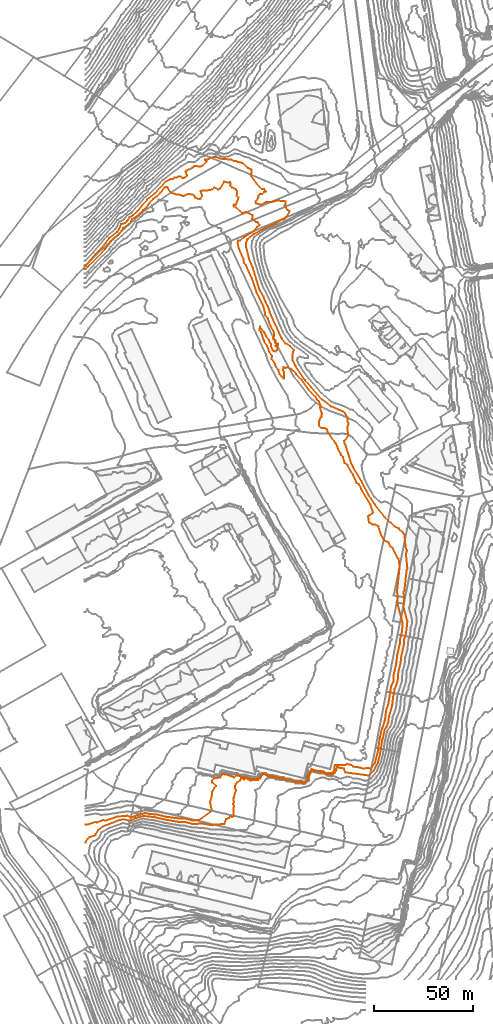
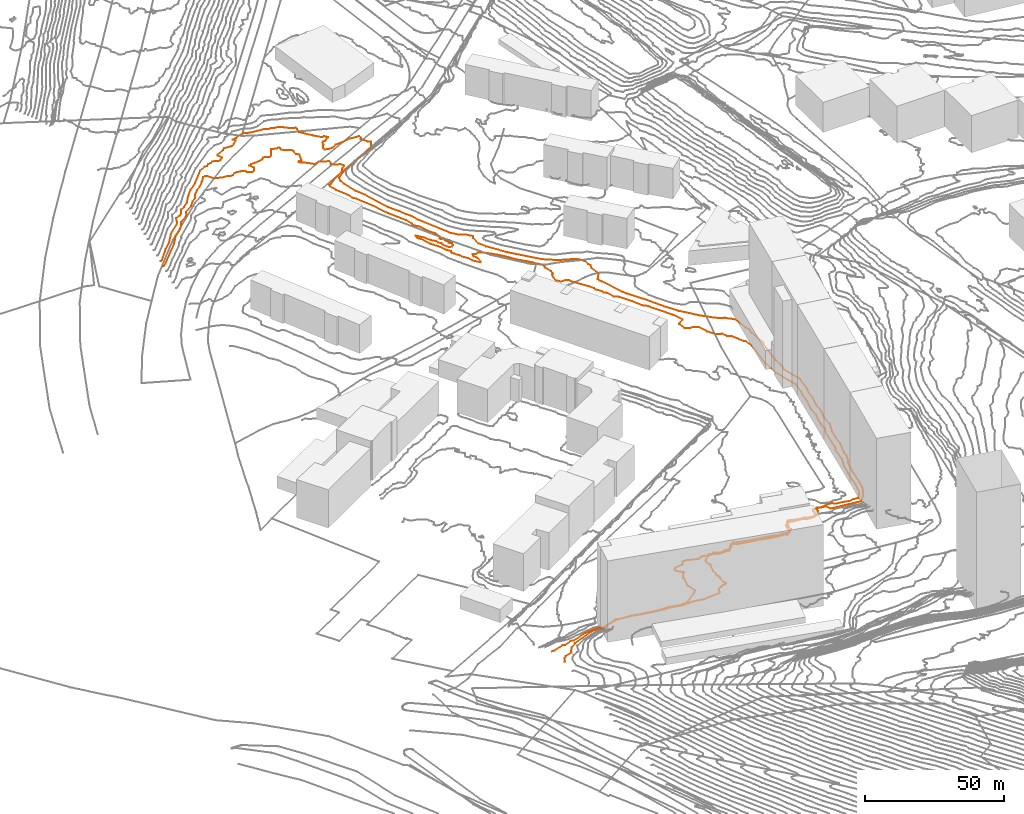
# Not in any storey, part 140 of 419: 2 proxies.
"""IFC2X3 model written with IfcOpenShell, lengths in metres."""

from ifc_helpers import new_model, entity, si_unit, frame, origin_with_axes, place, context, subcontext, project, element, save


model = new_model("IFC2X3")

# Units and contexts
model_context = context("Model", 3, precision=1e-05, world=origin_with_axes())
body_context = subcontext(model_context, "Body", "Model", "MODEL_VIEW")
ifc_project = project(units=[si_unit("AREAUNIT", "SQUARE_METRE"), si_unit("LENGTHUNIT", "METRE")], contexts=[model_context])

# Proxies
proxy_1_placement = place(None, frame((-0.4079795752, 354.5776912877, 15.0), z_axis=(0.0, 0.0, 1.0), x_axis=(1.0, 0.0, 0.0)))
element("IfcBuildingElementProxy", 1, at=proxy_1_placement, Name="Contour 15.0 m", ObjectType="NOTDEFINED", context=body_context, shape_type="GeometricCurveSet", body=[
    entity("IfcGeometricCurveSet", [entity("IfcPolyline", [entity("IfcCartesianPoint", [0.0, 0.0, 0.0]), entity("IfcCartesianPoint", [1.5, 0.0342834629, 0.0]), entity("IfcCartesianPoint", [5.5, 1.3845172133, 0.0]), entity("IfcCartesianPoint", [6.5, 1.1295237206, 0.0]), entity("IfcCartesianPoint", [9.5, 2.2799987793, 0.0]), entity("IfcCartesianPoint", [10.5, 1.9496285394, 0.0]), entity("IfcCartesianPoint", [16.5, 4.0283326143, 0.0]), entity("IfcCartesianPoint", [21.5, 4.4400005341, 0.0]), entity("IfcCartesianPoint", [23.5, 3.7018178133, 0.0]), entity("IfcCartesianPoint", [30.5, 5.8503026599, 0.0]), entity("IfcCartesianPoint", [32.5, 5.3347059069, 0.0]), entity("IfcCartesianPoint", [36.5, 5.0699996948, 0.0]), entity("IfcCartesianPoint", [41.5, 3.8824996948, 0.0]), entity("IfcCartesianPoint", [47.5, 3.0786197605, 0.0]), entity("IfcCartesianPoint", [50.5, 3.1094734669, 0.0]), entity("IfcCartesianPoint", [54.5, 2.056842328, 0.0]), entity("IfcCartesianPoint", [57.9000076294, 2.3199996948, 0.0]), entity("IfcCartesianPoint", [63.2999961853, 6.3199996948, 0.0]), entity("IfcCartesianPoint", [64.2499940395, 7.3199996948, 0.0]), entity("IfcCartesianPoint", [63.3888865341, 11.3199996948, 0.0]), entity("IfcCartesianPoint", [64.4999800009, 15.3199996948, 0.0]), entity("IfcCartesianPoint", [64.4999909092, 16.3199996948, 0.0]), entity("IfcCartesianPoint", [65.5, 18.3200121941, 0.0]), entity("IfcCartesianPoint", [66.4999875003, 19.3199996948, 0.0]), entity("IfcCartesianPoint", [64.3333306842, 21.3199996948, 0.0]), entity("IfcCartesianPoint", [64.3000012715, 22.3199996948, 0.0]), entity("IfcCartesianPoint", [65.3148144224, 23.3199996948, 0.0]), entity("IfcCartesianPoint", [68.5, 23.7790159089, 0.0]), entity("IfcCartesianPoint", [69.5, 25.4199998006, 0.0]), entity("IfcCartesianPoint", [71.1451617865, 25.3199996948, 0.0]), entity("IfcCartesianPoint", [75.5, 23.826849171, 0.0]), entity("IfcCartesianPoint", [76.5, 24.6288233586, 0.0]), entity("IfcCartesianPoint", [77.5, 24.6357891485, 0.0]), entity("IfcCartesianPoint", [79.5, 23.9177011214, 0.0]), entity("IfcCartesianPoint", [81.5, 23.8496800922, 0.0]), entity("IfcCartesianPoint", [83.5, 22.8660121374, 0.0]), entity("IfcCartesianPoint", [85.5, 23.0654540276, 0.0]), entity("IfcCartesianPoint", [87.5, 22.8616661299, 0.0]), entity("IfcCartesianPoint", [88.047263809, 23.3199996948, 0.0]), entity("IfcCartesianPoint", [89.1645962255, 25.3199996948, 0.0]), entity("IfcCartesianPoint", [90.5, 25.7994112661, 0.0]), entity("IfcCartesianPoint", [92.5, 24.884606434, 0.0]), entity("IfcCartesianPoint", [98.5, 23.5888674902, 0.0]), entity("IfcCartesianPoint", [99.5, 23.5975115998, 0.0]), entity("IfcCartesianPoint", [104.5, 22.1295233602, 0.0]), entity("IfcCartesianPoint", [109.5, 21.6295237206, 0.0]), entity("IfcCartesianPoint", [110.5, 21.041211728, 0.0]), entity("IfcCartesianPoint", [112.5318021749, 22.3199996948, 0.0]), entity("IfcCartesianPoint", [112.5738006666, 24.3199996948, 0.0]), entity("IfcCartesianPoint", [113.2077923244, 26.3199996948, 0.0]), entity("IfcCartesianPoint", [114.5, 27.9721735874, 0.0]), entity("IfcCartesianPoint", [116.5, 27.2350939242, 0.0]), entity("IfcCartesianPoint", [120.5, 26.8063010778, 0.0]), entity("IfcCartesianPoint", [121.5, 26.0993423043, 0.0]), entity("IfcCartesianPoint", [122.5, 25.8974642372, 0.0]), entity("IfcCartesianPoint", [124.5, 26.0, 0.0]), entity("IfcCartesianPoint", [125.5757578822, 26.3199996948, 0.0]), entity("IfcCartesianPoint", [126.1229508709, 28.3199996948, 0.0]), entity("IfcCartesianPoint", [126.0466664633, 29.3199996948, 0.0]), entity("IfcCartesianPoint", [126.5, 29.9932671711, 0.0]), entity("IfcCartesianPoint", [131.5, 30.1116657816, 0.0]), entity("IfcCartesianPoint", [132.5, 30.4939125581, 0.0]), entity("IfcCartesianPoint", [134.5, 30.157836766, 0.0]), entity("IfcCartesianPoint", [135.5, 29.2165523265, 0.0]), entity("IfcCartesianPoint", [138.5, 28.8512504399, 0.0]), entity("IfcCartesianPoint", [140.5, 28.2290913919, 0.0]), entity("IfcCartesianPoint", [142.5, 28.526897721, 0.0]), entity("IfcCartesianPoint", [144.5, 28.2855161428, 0.0]), entity("IfcCartesianPoint", [146.5434779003, 31.3199996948, 0.0]), entity("IfcCartesianPoint", [147.8611112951, 36.3199996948, 0.0]), entity("IfcCartesianPoint", [148.9444444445, 43.3199996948, 0.0]), entity("IfcCartesianPoint", [150.0675678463, 48.3199996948, 0.0]), entity("IfcCartesianPoint", [151.4811316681, 52.3199996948, 0.0]), entity("IfcCartesianPoint", [152.3222223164, 58.3199996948, 0.0]), entity("IfcCartesianPoint", [153.1744180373, 60.3199996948, 0.0]), entity("IfcCartesianPoint", [154.6224496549, 69.3199996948, 0.0]), entity("IfcCartesianPoint", [155.8478257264, 72.3199996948, 0.0]), entity("IfcCartesianPoint", [155.944444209, 75.3199996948, 0.0]), entity("IfcCartesianPoint", [157.2872333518, 81.3199996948, 0.0]), entity("IfcCartesianPoint", [157.7127666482, 85.3199996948, 0.0]), entity("IfcCartesianPoint", [159.0957449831, 91.3199996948, 0.0]), entity("IfcCartesianPoint", [159.3666659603, 94.3199996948, 0.0]), entity("IfcCartesianPoint", [159.9999978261, 96.3199996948, 0.0]), entity("IfcCartesianPoint", [160.5697669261, 101.3199996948, 0.0]), entity("IfcCartesianPoint", [157.9999973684, 111.3199996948, 0.0]), entity("IfcCartesianPoint", [157.7499991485, 118.3199996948, 0.0]), entity("IfcCartesianPoint", [159.0263163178, 130.3199996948, 0.0]), entity("IfcCartesianPoint", [158.5, 133.9866610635, 0.0]), entity("IfcCartesianPoint", [157.9999750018, 134.3199996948, 0.0]), entity("IfcCartesianPoint", [155.6428590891, 139.3199996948, 0.0]), entity("IfcCartesianPoint", [154.2999961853, 140.3199996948, 0.0]), entity("IfcCartesianPoint", [153.5, 142.3199854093, 0.0]), entity("IfcCartesianPoint", [151.2499970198, 143.3199996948, 0.0]), entity("IfcCartesianPoint", [149.5769247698, 146.3199996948, 0.0]), entity("IfcCartesianPoint", [148.2499970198, 150.3199996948, 0.0]), entity("IfcCartesianPoint", [146.5, 151.2533317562, 0.0]), entity("IfcCartesianPoint", [145.2999961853, 151.3199996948, 0.0]), entity("IfcCartesianPoint", [143.5625014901, 152.3199996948, 0.0]), entity("IfcCartesianPoint", [143.1153834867, 155.3199996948, 0.0]), entity("IfcCartesianPoint", [143.5, 155.875556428, 0.0]), entity("IfcCartesianPoint", [145.6428571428, 157.3199996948, 0.0]), entity("IfcCartesianPoint", [144.2307688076, 161.3199996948, 0.0]), entity("IfcCartesianPoint", [139.630435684, 169.3199996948, 0.0]), entity("IfcCartesianPoint", [139.3124998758, 170.3199996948, 0.0]), entity("IfcCartesianPoint", [138.5, 171.4670590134, 0.0]), entity("IfcCartesianPoint", [137.3709680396, 172.3199996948, 0.0]), entity("IfcCartesianPoint", [135.5784312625, 176.3199996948, 0.0]), entity("IfcCartesianPoint", [132.6219517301, 181.3199996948, 0.0]), entity("IfcCartesianPoint", [131.2647062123, 182.3199996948, 0.0]), entity("IfcCartesianPoint", [130.3999996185, 185.3199996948, 0.0]), entity("IfcCartesianPoint", [129.3846146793, 186.3199996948, 0.0]), entity("IfcCartesianPoint", [129.222222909, 187.3199996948, 0.0]), entity("IfcCartesianPoint", [127.855932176, 189.3199996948, 0.0]), entity("IfcCartesianPoint", [127.7083339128, 190.3199996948, 0.0]), entity("IfcCartesianPoint", [126.6621629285, 192.3199996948, 0.0]), entity("IfcCartesianPoint", [122.6481482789, 198.3199996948, 0.0]), entity("IfcCartesianPoint", [122.4999928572, 199.3199996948, 0.0]), entity("IfcCartesianPoint", [121.5, 199.8584620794, 0.0]), entity("IfcCartesianPoint", [119.5, 199.9062069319, 0.0]), entity("IfcCartesianPoint", [118.3518517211, 201.3199996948, 0.0]), entity("IfcCartesianPoint", [118.3749977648, 203.3199996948, 0.0]), entity("IfcCartesianPoint", [118.9999500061, 205.3199996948, 0.0]), entity("IfcCartesianPoint", [119.5, 205.6533330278, 0.0]), entity("IfcCartesianPoint", [119.7500029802, 207.3199996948, 0.0]), entity("IfcCartesianPoint", [118.8333386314, 210.3199996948, 0.0]), entity("IfcCartesianPoint", [119.2142818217, 211.3199996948, 0.0]), entity("IfcCartesianPoint", [118.3571399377, 213.3199996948, 0.0]), entity("IfcCartesianPoint", [117.2333329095, 214.3199996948, 0.0]), entity("IfcCartesianPoint", [116.5, 215.774544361, 0.0]), entity("IfcCartesianPoint", [113.1, 219.3199996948, 0.0]), entity("IfcCartesianPoint", [109.5, 224.34272746, 0.0]), entity("IfcCartesianPoint", [106.8571433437, 227.3199996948, 0.0]), entity("IfcCartesianPoint", [104.5, 229.4866690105, 0.0]), entity("IfcCartesianPoint", [102.5, 230.7485691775, 0.0]), entity("IfcCartesianPoint", [101.5, 230.1949967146, 0.0]), entity("IfcCartesianPoint", [100.5, 230.6533330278, 0.0]), entity("IfcCartesianPoint", [100.0999987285, 229.3199996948, 0.0]), entity("IfcCartesianPoint", [100.6818213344, 228.3199996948, 0.0]), entity("IfcCartesianPoint", [100.7857181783, 225.3199996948, 0.0]), entity("IfcCartesianPoint", [100.5, 224.9199920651, 0.0]), entity("IfcCartesianPoint", [99.5, 225.8914302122, 0.0]), entity("IfcCartesianPoint", [98.499997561, 227.3199996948, 0.0]), entity("IfcCartesianPoint", [97.8750007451, 229.3199996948, 0.0]), entity("IfcCartesianPoint", [96.4374986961, 231.3199996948, 0.0]), entity("IfcCartesianPoint", [96.2083343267, 232.3199996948, 0.0]), entity("IfcCartesianPoint", [94.5, 234.8914263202, 0.0]), entity("IfcCartesianPoint", [94.3636355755, 235.3199996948, 0.0]), entity("IfcCartesianPoint", [94.7222269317, 236.3199996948, 0.0]), entity("IfcCartesianPoint", [93.5, 237.9866663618, 0.0]), entity("IfcCartesianPoint", [92.2391291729, 241.3199996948, 0.0]), entity("IfcCartesianPoint", [90.5, 244.1057149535, 0.0]), entity("IfcCartesianPoint", [89.1190480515, 248.3199996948, 0.0]), entity("IfcCartesianPoint", [88.3857145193, 249.3199996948, 0.0]), entity("IfcCartesianPoint", [88.5, 251.1533303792, 0.0]), entity("IfcCartesianPoint", [90.7222269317, 248.3199996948, 0.0]), entity("IfcCartesianPoint", [91.6111134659, 246.3199996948, 0.0]), entity("IfcCartesianPoint", [93.1923082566, 244.3199996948, 0.0]), entity("IfcCartesianPoint", [93.3749977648, 243.3199996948, 0.0]), entity("IfcCartesianPoint", [94.1666666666, 242.3199996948, 0.0]), entity("IfcCartesianPoint", [94.0999987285, 241.3199996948, 0.0]), entity("IfcCartesianPoint", [95.0000049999, 239.3199996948, 0.0]), entity("IfcCartesianPoint", [95.5, 238.7317624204, 0.0]), entity("IfcCartesianPoint", [96.5, 238.6949967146, 0.0]), entity("IfcCartesianPoint", [97.2142818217, 239.3199996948, 0.0]), entity("IfcCartesianPoint", [97.4999666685, 240.3199996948, 0.0]), entity("IfcCartesianPoint", [96.4999500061, 241.3199996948, 0.0]), entity("IfcCartesianPoint", [97.5, 241.3200996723, 0.0]), entity("IfcCartesianPoint", [97.6428590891, 242.3199996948, 0.0]), entity("IfcCartesianPoint", [97.5, 242.6533330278, 0.0]), entity("IfcCartesianPoint", [96.5, 242.6533330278, 0.0]), entity("IfcCartesianPoint", [96.2142818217, 243.3199996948, 0.0]), entity("IfcCartesianPoint", [96.4999500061, 244.3199996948, 0.0]), entity("IfcCartesianPoint", [95.5, 244.7200073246, 0.0]), entity("IfcCartesianPoint", [95.0714305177, 245.3199996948, 0.0]), entity("IfcCartesianPoint", [95.7500059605, 246.3199996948, 0.0]), entity("IfcCartesianPoint", [95.5, 248.7200073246, 0.0]), entity("IfcCartesianPoint", [93.9285694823, 251.3199996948, 0.0]), entity("IfcCartesianPoint", [92.5588248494, 255.3199996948, 0.0]), entity("IfcCartesianPoint", [91.0555567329, 257.3199996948, 0.0]), entity("IfcCartesianPoint", [91.0909088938, 258.3199996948, 0.0]), entity("IfcCartesianPoint", [90.3333342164, 261.3199996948, 0.0]), entity("IfcCartesianPoint", [86.9358972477, 268.3199996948, 0.0]), entity("IfcCartesianPoint", [84.5, 275.3199944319, 0.0]), entity("IfcCartesianPoint", [81.5, 282.1295237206, 0.0]), entity("IfcCartesianPoint", [80.5204086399, 283.3199996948, 0.0]), entity("IfcCartesianPoint", [80.2608703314, 285.3199996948, 0.0]), entity("IfcCartesianPoint", [78.0599994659, 290.3199996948, 0.0]), entity("IfcCartesianPoint", [77.2872333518, 293.3199996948, 0.0]), entity("IfcCartesianPoint", [77.5, 294.4898113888, 0.0]), entity("IfcCartesianPoint", [78.5, 294.6771430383, 0.0]), entity("IfcCartesianPoint", [80.5, 296.320002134, 0.0]), entity("IfcCartesianPoint", [85.4999923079, 299.3199996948, 0.0]), entity("IfcCartesianPoint", [86.9545446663, 301.3199996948, 0.0]), entity("IfcCartesianPoint", [88.2333329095, 302.3199996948, 0.0]), entity("IfcCartesianPoint", [87.5, 303.7200073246, 0.0]), entity("IfcCartesianPoint", [86.5, 303.9866610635, 0.0]), entity("IfcCartesianPoint", [84.4999888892, 305.3199996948, 0.0]), entity("IfcCartesianPoint", [84.9000076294, 306.3199996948, 0.0]), entity("IfcCartesianPoint", [84.9000076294, 307.3199996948, 0.0]), entity("IfcCartesianPoint", [81.5, 308.8914302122, 0.0]), entity("IfcCartesianPoint", [79.5, 308.396924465, 0.0]), entity("IfcCartesianPoint", [76.5, 311.1771406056, 0.0]), entity("IfcCartesianPoint", [75.5, 311.7200073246, 0.0]), entity("IfcCartesianPoint", [75.1666701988, 312.3199996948, 0.0]), entity("IfcCartesianPoint", [75.5, 312.6949967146, 0.0]), entity("IfcCartesianPoint", [76.5, 312.6533330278, 0.0]), entity("IfcCartesianPoint", [77.7000038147, 316.3199996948, 0.0]), entity("IfcCartesianPoint", [76.8333298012, 317.3199996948, 0.0]), entity("IfcCartesianPoint", [76.9999900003, 319.3199996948, 0.0]), entity("IfcCartesianPoint", [76.5, 320.3199796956, 0.0]), entity("IfcCartesianPoint", [74.5, 321.3199830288, 0.0]), entity("IfcCartesianPoint", [73.4999000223, 322.3199996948, 0.0]), entity("IfcCartesianPoint", [73.7222269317, 323.3199996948, 0.0]), entity("IfcCartesianPoint", [73.5, 323.9866663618, 0.0]), entity("IfcCartesianPoint", [72.5, 323.6949967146, 0.0]), entity("IfcCartesianPoint", [70.5, 324.3198997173, 0.0]), entity("IfcCartesianPoint", [68.5, 320.8199746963, 0.0]), entity("IfcCartesianPoint", [67.5000499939, 320.3199996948, 0.0]), entity("IfcCartesianPoint", [65.5, 321.3199796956, 0.0]), entity("IfcCartesianPoint", [64.5, 320.3199854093, 0.0]), entity("IfcCartesianPoint", [61.5, 319.8199913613, 0.0]), entity("IfcCartesianPoint", [59.5, 319.8199871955, 0.0]), entity("IfcCartesianPoint", [58.5, 319.462858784, 0.0]), entity("IfcCartesianPoint", [59.4545444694, 317.3199996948, 0.0]), entity("IfcCartesianPoint", [58.5, 315.6533315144, 0.0]), entity("IfcCartesianPoint", [57.5, 315.396924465, 0.0]), entity("IfcCartesianPoint", [55.8750007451, 316.3199996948, 0.0]), entity("IfcCartesianPoint", [55.5, 316.9866698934, 0.0]), entity("IfcCartesianPoint", [54.5, 317.7200009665, 0.0]), entity("IfcCartesianPoint", [52.5, 318.0342863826, 0.0]), entity("IfcCartesianPoint", [51.5, 317.8199896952, 0.0]), entity("IfcCartesianPoint", [50.5, 317.1533303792, 0.0]), entity("IfcCartesianPoint", [49.5, 317.0342863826, 0.0]), entity("IfcCartesianPoint", [48.5, 317.605713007, 0.0]), entity("IfcCartesianPoint", [46.5, 317.774544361, 0.0]), entity("IfcCartesianPoint", [43.5, 318.6993089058, 0.0]), entity("IfcCartesianPoint", [42.0333341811, 321.3199996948, 0.0]), entity("IfcCartesianPoint", [41.5, 321.6678261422, 0.0]), entity("IfcCartesianPoint", [40.5, 321.3897666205, 0.0]), entity("IfcCartesianPoint", [38.5, 318.8533327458, 0.0]), entity("IfcCartesianPoint", [36.5, 316.8654552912, 0.0]), entity("IfcCartesianPoint", [34.5, 315.4286957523, 0.0]), entity("IfcCartesianPoint", [32.5333340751, 313.3199996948, 0.0]), entity("IfcCartesianPoint", [31.2999992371, 311.3199996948, 0.0]), entity("IfcCartesianPoint", [29.5, 309.9199996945, 0.0]), entity("IfcCartesianPoint", [27.5, 307.6755550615, 0.0]), entity("IfcCartesianPoint", [24.0600013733, 305.3199996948, 0.0]), entity("IfcCartesianPoint", [23.5, 303.9449987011, 0.0]), entity("IfcCartesianPoint", [22.5, 302.837239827, 0.0]), entity("IfcCartesianPoint", [19.5, 300.9200003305, 0.0]), entity("IfcCartesianPoint", [18.6929819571, 299.3199996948, 0.0]), entity("IfcCartesianPoint", [17.0200004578, 297.3199996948, 0.0]), entity("IfcCartesianPoint", [13.5000020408, 294.3199996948, 0.0]), entity("IfcCartesianPoint", [10.4736836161, 290.3199996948, 0.0]), entity("IfcCartesianPoint", [1.5, 281.08595753, 0.0]), entity("IfcCartesianPoint", [0.5, 280.2290902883, 0.0]), entity("IfcCartesianPoint", [0.0, 280.2290902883, 0.0])])]),
])
proxy_2_placement = place(None, frame((-0.4079795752, 345.4691176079, 16.0), z_axis=(0.0, 0.0, 1.0), x_axis=(1.0, 0.0, 0.0)))
element("IfcBuildingElementProxy", 2, at=proxy_2_placement, Name="Contour 16.0 m", ObjectType="NOTDEFINED", context=body_context, shape_type="GeometricCurveSet", body=[
    entity("IfcGeometricCurveSet", [entity("IfcPolyline", [entity("IfcCartesianPoint", [0.0, 0.0, 0.0]), entity("IfcCartesianPoint", [0.5, 0.0, 0.0]), entity("IfcCartesianPoint", [1.5, 1.9285796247, 0.0]), entity("IfcCartesianPoint", [2.5, 2.8285708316, 0.0]), entity("IfcCartesianPoint", [5.5, 3.714291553, 0.0]), entity("IfcCartesianPoint", [5.6724144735, 4.4285733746, 0.0]), entity("IfcCartesianPoint", [6.982759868, 6.4285733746, 0.0]), entity("IfcCartesianPoint", [9.5, 8.2180467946, 0.0]), entity("IfcCartesianPoint", [17.7142832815, 11.4285733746, 0.0]), entity("IfcCartesianPoint", [19.5, 11.7728349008, 0.0]), entity("IfcCartesianPoint", [20.5, 11.6785719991, 0.0]), entity("IfcCartesianPoint", [22.5, 10.9630552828, 0.0]), entity("IfcCartesianPoint", [23.5, 11.1750521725, 0.0]), entity("IfcCartesianPoint", [25.5, 12.2987028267, 0.0]), entity("IfcCartesianPoint", [29.5, 13.4670357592, 0.0]), entity("IfcCartesianPoint", [35.5, 12.813188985, 0.0]), entity("IfcCartesianPoint", [40.5, 11.6285746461, 0.0]), entity("IfcCartesianPoint", [47.5, 10.4630568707, 0.0]), entity("IfcCartesianPoint", [50.5, 10.4285751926, 0.0]), entity("IfcCartesianPoint", [54.5, 9.4110291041, 0.0]), entity("IfcCartesianPoint", [59.5, 9.591838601, 0.0]), entity("IfcCartesianPoint", [63.5, 8.8376644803, 0.0]), entity("IfcCartesianPoint", [70.5, 9.4285900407, 0.0]), entity("IfcCartesianPoint", [71.5, 11.8496265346, 0.0]), entity("IfcCartesianPoint", [72.8333333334, 12.4285733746, 0.0]), entity("IfcCartesianPoint", [73.5, 13.0952400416, 0.0]), entity("IfcCartesianPoint", [74.5, 13.039686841, 0.0]), entity("IfcCartesianPoint", [75.4999857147, 13.4285733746, 0.0]), entity("IfcCartesianPoint", [75.2142818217, 14.4285733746, 0.0]), entity("IfcCartesianPoint", [75.2272679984, 17.4285733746, 0.0]), entity("IfcCartesianPoint", [75.4999800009, 18.4285733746, 0.0]), entity("IfcCartesianPoint", [74.9999815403, 19.4285733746, 0.0]), entity("IfcCartesianPoint", [75.3571409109, 20.4285733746, 0.0]), entity("IfcCartesianPoint", [75.2999961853, 22.4285733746, 0.0]), entity("IfcCartesianPoint", [76.3999980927, 26.4285733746, 0.0]), entity("IfcCartesianPoint", [75.9999928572, 27.4285733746, 0.0]), entity("IfcCartesianPoint", [75.9999815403, 28.4285733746, 0.0]), entity("IfcCartesianPoint", [76.2142818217, 29.4285733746, 0.0]), entity("IfcCartesianPoint", [76.9285733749, 30.4285733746, 0.0]), entity("IfcCartesianPoint", [78.3749970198, 31.4285733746, 0.0]), entity("IfcCartesianPoint", [78.9999815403, 32.4285733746, 0.0]), entity("IfcCartesianPoint", [79.6739166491, 32.4285733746, 0.0]), entity("IfcCartesianPoint", [80.5, 31.869749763, 0.0]), entity("IfcCartesianPoint", [81.0428568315, 32.4285733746, 0.0]), entity("IfcCartesianPoint", [81.5, 32.5016326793, 0.0]), entity("IfcCartesianPoint", [83.5, 31.2389184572, 0.0]), entity("IfcCartesianPoint", [85.5, 31.7194822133, 0.0]), entity("IfcCartesianPoint", [87.5, 31.5535730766, 0.0]), entity("IfcCartesianPoint", [88.5918369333, 32.4285733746, 0.0]), entity("IfcCartesianPoint", [89.5, 34.0827089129, 0.0]), entity("IfcCartesianPoint", [90.5, 34.6138672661, 0.0]), entity("IfcCartesianPoint", [91.5, 33.997435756, 0.0]), entity("IfcCartesianPoint", [94.5, 33.1304367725, 0.0]), entity("IfcCartesianPoint", [105.5, 30.895240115, 0.0]), entity("IfcCartesianPoint", [106.5, 30.3717549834, 0.0]), entity("IfcCartesianPoint", [108.5, 30.4419070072, 0.0]), entity("IfcCartesianPoint", [110.5, 29.8467550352, 0.0]), entity("IfcCartesianPoint", [112.8851590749, 31.4285733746, 0.0]), entity("IfcCartesianPoint", [112.9428043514, 33.4285733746, 0.0]), entity("IfcCartesianPoint", [114.5, 36.5976556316, 0.0]), entity("IfcCartesianPoint", [118.5, 35.4285739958, 0.0]), entity("IfcCartesianPoint", [120.5, 35.2898173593, 0.0]), entity("IfcCartesianPoint", [122.5, 34.3226908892, 0.0]), entity("IfcCartesianPoint", [124.5, 34.2843428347, 0.0]), entity("IfcCartesianPoint", [125.5, 34.5042037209, 0.0]), entity("IfcCartesianPoint", [126.333333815, 35.4285733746, 0.0]), entity("IfcCartesianPoint", [126.9782614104, 36.4285733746, 0.0]), entity("IfcCartesianPoint", [127.5, 38.4584247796, 0.0]), entity("IfcCartesianPoint", [128.5, 37.7834135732, 0.0]), entity("IfcCartesianPoint", [130.8333368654, 37.4285733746, 0.0]), entity("IfcCartesianPoint", [131.6111134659, 35.4285733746, 0.0]), entity("IfcCartesianPoint", [143.5, 33.8339778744, 0.0]), entity("IfcCartesianPoint", [145.8773583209, 36.4285733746, 0.0]), entity("IfcCartesianPoint", [147.9857139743, 40.4285733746, 0.0]), entity("IfcCartesianPoint", [149.0652182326, 44.4285733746, 0.0]), entity("IfcCartesianPoint", [150.1901414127, 51.4285733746, 0.0]), entity("IfcCartesianPoint", [151.5, 56.9841301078, 0.0]), entity("IfcCartesianPoint", [152.3679250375, 58.4285733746, 0.0]), entity("IfcCartesianPoint", [153.3679250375, 61.4285733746, 0.0]), entity("IfcCartesianPoint", [153.5555550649, 63.4285733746, 0.0]), entity("IfcCartesianPoint", [155.2799991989, 69.4285733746, 0.0]), entity("IfcCartesianPoint", [155.6800003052, 73.4285733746, 0.0]), entity("IfcCartesianPoint", [156.5200004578, 77.4285733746, 0.0]), entity("IfcCartesianPoint", [157.9893614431, 81.4285733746, 0.0]), entity("IfcCartesianPoint", [158.3775520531, 86.4285733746, 0.0]), entity("IfcCartesianPoint", [159.4361687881, 90.4285733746, 0.0]), entity("IfcCartesianPoint", [159.8695645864, 94.4285733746, 0.0]), entity("IfcCartesianPoint", [161.0531927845, 99.4285733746, 0.0]), entity("IfcCartesianPoint", [161.260868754, 102.4285733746, 0.0]), entity("IfcCartesianPoint", [162.1888901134, 105.4285733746, 0.0]), entity("IfcCartesianPoint", [162.9047620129, 111.4285733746, 0.0]), entity("IfcCartesianPoint", [160.89473671, 119.4285733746, 0.0]), entity("IfcCartesianPoint", [161.2666670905, 121.4285733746, 0.0]), entity("IfcCartesianPoint", [161.0333341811, 126.4285733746, 0.0]), entity("IfcCartesianPoint", [161.3928549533, 127.4285733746, 0.0]), entity("IfcCartesianPoint", [162.5416676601, 137.4285733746, 0.0]), entity("IfcCartesianPoint", [162.8846165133, 138.4285733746, 0.0]), entity("IfcCartesianPoint", [162.1785705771, 145.4285733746, 0.0]), entity("IfcCartesianPoint", [162.6111134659, 147.4285733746, 0.0]), entity("IfcCartesianPoint", [161.9999944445, 149.4285733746, 0.0]), entity("IfcCartesianPoint", [161.3999980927, 155.4285733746, 0.0]), entity("IfcCartesianPoint", [160.7222269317, 156.4285733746, 0.0]), entity("IfcCartesianPoint", [159.5, 157.3174599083, 0.0]), entity("IfcCartesianPoint", [158.6111134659, 158.4285733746, 0.0]), entity("IfcCartesianPoint", [156.5, 159.428564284, 0.0]), entity("IfcCartesianPoint", [154.3181786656, 161.4285733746, 0.0]), entity("IfcCartesianPoint", [151.5, 164.2747238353, 0.0]), entity("IfcCartesianPoint", [146.4999964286, 170.4285733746, 0.0]), entity("IfcCartesianPoint", [143.3409096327, 175.4285733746, 0.0]), entity("IfcCartesianPoint", [139.7325588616, 182.4285733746, 0.0]), entity("IfcCartesianPoint", [135.5, 189.4785743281, 0.0]), entity("IfcCartesianPoint", [134.5512830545, 191.4285733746, 0.0]), entity("IfcCartesianPoint", [131.6874996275, 200.4285733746, 0.0]), entity("IfcCartesianPoint", [131.1428610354, 201.4285733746, 0.0]), entity("IfcCartesianPoint", [131.0454600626, 202.4285733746, 0.0]), entity("IfcCartesianPoint", [133.1000025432, 205.4285733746, 0.0]), entity("IfcCartesianPoint", [132.6111134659, 209.4285733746, 0.0]), entity("IfcCartesianPoint", [133.2142818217, 211.4285733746, 0.0]), entity("IfcCartesianPoint", [132.7999990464, 212.4285733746, 0.0]), entity("IfcCartesianPoint", [132.7222269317, 214.4285733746, 0.0]), entity("IfcCartesianPoint", [131.5769242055, 216.4285733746, 0.0]), entity("IfcCartesianPoint", [130.4999916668, 217.4285733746, 0.0]), entity("IfcCartesianPoint", [124.5, 220.0405133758, 0.0]), entity("IfcCartesianPoint", [119.7622945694, 223.4285733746, 0.0]), entity("IfcCartesianPoint", [111.1885240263, 233.4285733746, 0.0]), entity("IfcCartesianPoint", [106.4838705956, 240.4285733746, 0.0]), entity("IfcCartesianPoint", [105.0333324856, 243.4285733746, 0.0]), entity("IfcCartesianPoint", [105.1153880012, 247.4285733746, 0.0]), entity("IfcCartesianPoint", [105.6578936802, 248.4285733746, 0.0]), entity("IfcCartesianPoint", [103.8181829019, 250.4285733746, 0.0]), entity("IfcCartesianPoint", [101.5, 251.787548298, 0.0]), entity("IfcCartesianPoint", [99.4166678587, 254.4285733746, 0.0]), entity("IfcCartesianPoint", [93.5810803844, 267.4285733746, 0.0]), entity("IfcCartesianPoint", [92.6333343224, 270.4285733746, 0.0]), entity("IfcCartesianPoint", [91.5, 272.3850942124, 0.0]), entity("IfcCartesianPoint", [90.3333340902, 275.4285733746, 0.0]), entity("IfcCartesianPoint", [88.125000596, 279.4285733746, 0.0]), entity("IfcCartesianPoint", [84.7954550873, 290.4285733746, 0.0]), entity("IfcCartesianPoint", [83.1060619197, 294.4285733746, 0.0]), entity("IfcCartesianPoint", [81.6142857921, 300.4285733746, 0.0]), entity("IfcCartesianPoint", [81.5303037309, 302.4285733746, 0.0]), entity("IfcCartesianPoint", [82.2241381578, 304.4285733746, 0.0]), entity("IfcCartesianPoint", [85.5, 307.0372686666, 0.0]), entity("IfcCartesianPoint", [92.5, 310.6943953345, 0.0]), entity("IfcCartesianPoint", [96.5, 312.2653081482, 0.0]), entity("IfcCartesianPoint", [99.5, 314.1478717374, 0.0]), entity("IfcCartesianPoint", [100.611111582, 314.4285733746, 0.0]), entity("IfcCartesianPoint", [101.8157923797, 315.4285733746, 0.0]), entity("IfcCartesianPoint", [103.5909106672, 318.4285733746, 0.0]), entity("IfcCartesianPoint", [102.5, 319.0285657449, 0.0]), entity("IfcCartesianPoint", [100.9999500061, 321.4285733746, 0.0]), entity("IfcCartesianPoint", [101.5, 321.928623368, 0.0]), entity("IfcCartesianPoint", [101.4999666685, 323.4285733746, 0.0]), entity("IfcCartesianPoint", [97.5, 323.8285714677, 0.0]), entity("IfcCartesianPoint", [94.5, 323.2013034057, 0.0]), entity("IfcCartesianPoint", [91.5, 323.0396847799, 0.0]), entity("IfcCartesianPoint", [89.5, 321.9285700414, 0.0]), entity("IfcCartesianPoint", [88.5, 321.8035743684, 0.0]), entity("IfcCartesianPoint", [86.5, 322.3416150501, 0.0]), entity("IfcCartesianPoint", [86.3999980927, 323.4285733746, 0.0]), entity("IfcCartesianPoint", [87.7, 325.4285733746, 0.0]), entity("IfcCartesianPoint", [87.9000012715, 326.4285733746, 0.0]), entity("IfcCartesianPoint", [88.5, 327.120881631, 0.0]), entity("IfcCartesianPoint", [89.5, 327.0, 0.0]), entity("IfcCartesianPoint", [90.5, 328.0952400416, 0.0]), entity("IfcCartesianPoint", [91.4999500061, 328.4285733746, 0.0]), entity("IfcCartesianPoint", [90.5, 329.7619067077, 0.0]), entity("IfcCartesianPoint", [89.5, 329.5714324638, 0.0]), entity("IfcCartesianPoint", [86.9444432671, 332.4285733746, 0.0]), entity("IfcCartesianPoint", [83.9666658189, 336.4285733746, 0.0]), entity("IfcCartesianPoint", [84.3571402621, 338.4285733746, 0.0]), entity("IfcCartesianPoint", [84.2647019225, 339.4285733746, 0.0]), entity("IfcCartesianPoint", [82.5, 340.1382506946, 0.0]), entity("IfcCartesianPoint", [79.5, 342.8785724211, 0.0]), entity("IfcCartesianPoint", [77.5, 343.261904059, 0.0]), entity("IfcCartesianPoint", [76.5, 343.7410730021, 0.0]), entity("IfcCartesianPoint", [75.5, 343.7012990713, 0.0]), entity("IfcCartesianPoint", [73.9999956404, 344.4285733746, 0.0]), entity("IfcCartesianPoint", [68.5, 344.9642879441, 0.0]), entity("IfcCartesianPoint", [66.5, 345.8353525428, 0.0]), entity("IfcCartesianPoint", [63.5, 345.4812060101, 0.0]), entity("IfcCartesianPoint", [62.5, 344.6917328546, 0.0]), entity("IfcCartesianPoint", [60.7500059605, 344.4285733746, 0.0]), entity("IfcCartesianPoint", [61.5, 343.4285400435, 0.0]), entity("IfcCartesianPoint", [59.5, 341.4285233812, 0.0]), entity("IfcCartesianPoint", [58.5, 340.9285233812, 0.0]), entity("IfcCartesianPoint", [55.5, 341.2857142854, 0.0]), entity("IfcCartesianPoint", [54.5, 340.4285590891, 0.0]), entity("IfcCartesianPoint", [51.5, 339.000003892, 0.0]), entity("IfcCartesianPoint", [51.1363628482, 338.4285733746, 0.0]), entity("IfcCartesianPoint", [51.7857129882, 336.4285733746, 0.0]), entity("IfcCartesianPoint", [50.5, 335.3660718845, 0.0]), entity("IfcCartesianPoint", [49.5, 335.2063464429, 0.0]), entity("IfcCartesianPoint", [48.5, 336.0439568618, 0.0]), entity("IfcCartesianPoint", [47.5, 336.0147786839, 0.0]), entity("IfcCartesianPoint", [46.5, 335.5439572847, 0.0]), entity("IfcCartesianPoint", [45.5, 335.4910748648, 0.0]), entity("IfcCartesianPoint", [44.5, 334.6285771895, 0.0]), entity("IfcCartesianPoint", [43.5, 334.6285733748, 0.0]), entity("IfcCartesianPoint", [40.9374985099, 333.4285733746, 0.0]), entity("IfcCartesianPoint", [35.3604645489, 327.4285733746, 0.0]), entity("IfcCartesianPoint", [31.699999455, 324.4285733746, 0.0]), entity("IfcCartesianPoint", [28.9705875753, 321.4285733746, 0.0]), entity("IfcCartesianPoint", [26.8076934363, 318.4285733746, 0.0]), entity("IfcCartesianPoint", [24.4347831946, 316.4285733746, 0.0]), entity("IfcCartesianPoint", [22.7051278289, 315.4285733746, 0.0]), entity("IfcCartesianPoint", [21.5606073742, 313.4285733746, 0.0]), entity("IfcCartesianPoint", [20.5, 312.5194827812, 0.0]), entity("IfcCartesianPoint", [18.5, 311.949407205, 0.0]), entity("IfcCartesianPoint", [17.4482762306, 309.4285733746, 0.0]), entity("IfcCartesianPoint", [16.5, 308.0696000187, 0.0]), entity("IfcCartesianPoint", [12.5, 304.8919882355, 0.0]), entity("IfcCartesianPoint", [8.5, 299.6785728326, 0.0]), entity("IfcCartesianPoint", [5.5, 296.9179348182, 0.0]), entity("IfcCartesianPoint", [0.7999992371, 291.4285733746, 0.0]), entity("IfcCartesianPoint", [0.0, 291.1654160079, 0.0])])]),
])

save(model, "model.ifc")
